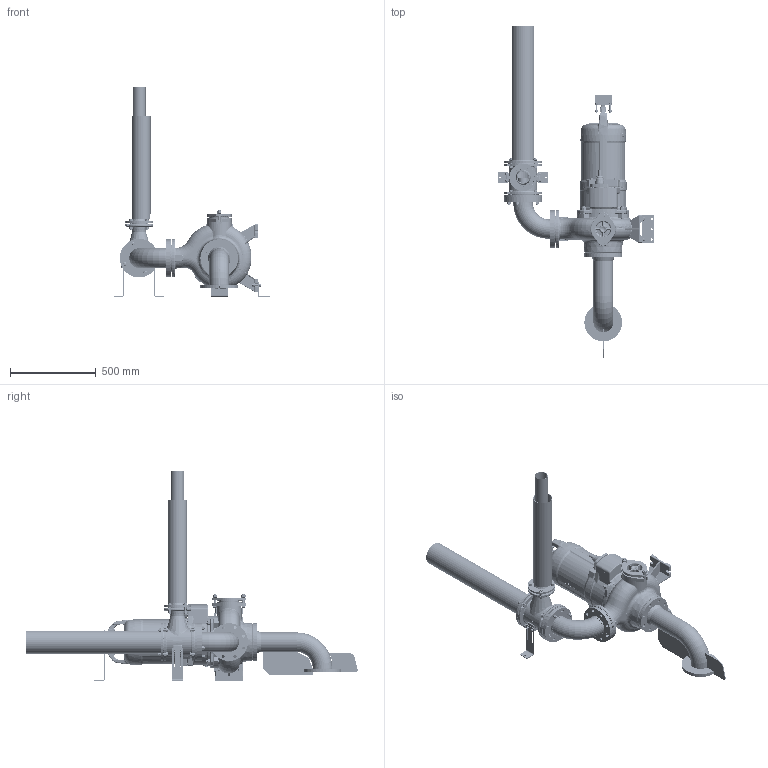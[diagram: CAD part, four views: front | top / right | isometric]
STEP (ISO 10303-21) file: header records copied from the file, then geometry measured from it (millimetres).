
FILE_DESCRIPTION(/* description */ (''),/* implementation_level */ '2;1');
FILE_NAME(/* name */ 'H:\3D\Projekte\@Wirbeljet\700 Amajet_2021_step\Amajet_M_Bottom_suction_KA_16.stp',/* time_stamp */ '2021-04-12T22:44:53+02:00',/* author */ ('emmrpat'),/* organization */ (''),/* preprocessor_version */ 'ST-DEVELOPER v18',/* originating_system */ 'Autodesk Inventor 2020',/* authorisation */ '');
FILE_SCHEMA (('AUTOMOTIVE_DESIGN { 1 0 10303 214 3 1 1 }'));
Length unit declared in the file: millimetre
Products named in the file (54): Amajet_M_Bottom_suction_KA_16; Ansaugstück_DN100_Bodenabsaugung; Dichtung1_DN100_5mm; Flansch_0W308059; 0W308365_Vari_01_Duese; Strahlrohr_133mm_800mm; 0W308365_Vari_01_Duese_1; Dichtung_DN100_5mm; Dichtung_DN65_4mm_110; 0W308366_800mm_Belueftung; 0W308366_800mm_Rohr; Vorschweißflansch_DN65_PN6; Kabelschutzrohr_01; 0W382247_Mischkammer; Verstelllasche; ISO 7089 -  8; ISO 4762  - M8 x 16; FFQ-Stueck_DN100_Losflansche_183mm_Edelstahl; Aufstellung_03; KRT_100-250_komplett; Sewatec_100-250_0W383895_01; Putzlochdeckel_Z065469; ISO 4032 - M16; DIN 188 - M16 x 70; UG155595214_01; ug1004874zmn001_01; ug1004383zmn001_01; ug1510147zmk001_01_BODY; ug1510095zmk001_01; ug1510137zmk001_01; ug1510136zmk001_01; ug1510110zmk001_01; UG154735011ZMM001_02; UG153885001ZMM001_01; ug1012584zmn001_01; ug1002091zmn001_01; UG154911611ZMM001_04; ISO 4032 - M16_1; DIN 835 - M16 x 50; Stützwinkel_neu_01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
Assembly tree (148 placements, depth 5):
  Amajet_M_Bottom_suction_KA_16
    Dichtung1_DN100_5mm  x3
    Ansaugstück_DN100_Bodenabsaugung
    Flansch_0W308059
    Dichtung_DN100_5mm  x2
    0W308365_Vari_01_Duese
    Strahlrohr_133mm_800mm
    0W308365_Vari_01_Duese_1
    Dichtung_DN65_4mm_110
    0W308366_800mm_Belueftung
      0W308366_800mm_Rohr
      Vorschweißflansch_DN65_PN6
    Kabelschutzrohr_01
    0W382247_Mischkammer
    Verstelllasche  x2
    ISO 7089 -  8  x4
    ISO 4762  - M8 x 16  x4
    FFQ-Stueck_DN100_Losflansche_183mm_Edelstahl
    Aufstellung_03
      KRT_100-250_komplett
        Sewatec_100-250_0W383895_01
        Putzlochdeckel_Z065469
        ISO 4032 - M16  x2
        ISO 7089 -  16  x2
        DIN 188 - M16 x 70  x2
      UG155595214_01
        ug1004874zmn001_01  x4
        ug1004383zmn001_01  x2
        ug1510147zmk001_01_BODY
          ug1510095zmk001_01
          ug1510137zmk001_01  x12
          ug1510136zmk001_01
          ug1510110zmk001_01
        UG154735011ZMM001_02
        UG153885001ZMM001_01
        ug1012584zmn001_01
        ug1002091zmn001_01
        UG154911611ZMM001_04
        ISO 4032 - M16_1  x4
        ISO 7089 -  16  x4
        DIN 835 - M16 x 50  x4
    Stützwinkel_neu_01
      Stützwinkel_neu
      Klemmblech_neu
      ISO 4032 - M10  x2
      ISO 7089 - 10 - 140 HV  x2
      ISO 4017 - M10 x 55  x2
    Stützwinkel_Pumpe_S-Aufstellung
    ISO 7089 -  12  x28
    ISO 4032 - M12  x14
    ISO 4017 - M12 x 45  x2
    ISO 7089 -  16
    DIN 835 - M12 x 40  x4
    ISO 4017 - M12 x 30  x4
    ISO 4017 - M12 x 50  x4
    ISO 4017 - M12 x 55  x4
Bounding box: 914 x 1937.65 x 1222 mm (x, y, z)
Volume: 27445761.5 mm3; surface area: 6135259 mm2
Topology: 147 solids, 147 shells, 3939 faces, 9374 edges, 5781 vertices
Faces by surface type: plane 1360, cylinder 1012, bspline 715, torus 375, cone 344, sphere 133
Full cylindrical faces by diameter (mm): 3 x12, 3.05 x2, 3.3 x1, 4 x12, 5 x12, 6 x12, 6.8 x1, 7 x24, 8 x8, 8.376 x2, 8.4 x4, 8.5 x6, 10 x8, 10.106 x14, 10.5 x2, 11 x8, 11.5 x8, 12 x26, 13 x40, 13.835 x6, 14 x4, 14.63 x2, 15.25 x1, 16 x24, 16.63 x14, 16.662 x1, 17 x7, 17.1 x1, 17.5 x4, 18 x61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
Entity records: 134507 total; most frequent: CARTESIAN_POINT 60551, ORIENTED_EDGE 14868, DIRECTION 14639, EDGE_CURVE 7434, AXIS2_PLACEMENT_3D 6103, VERTEX_POINT 4590, EDGE_LOOP 3512, CIRCLE 3345
